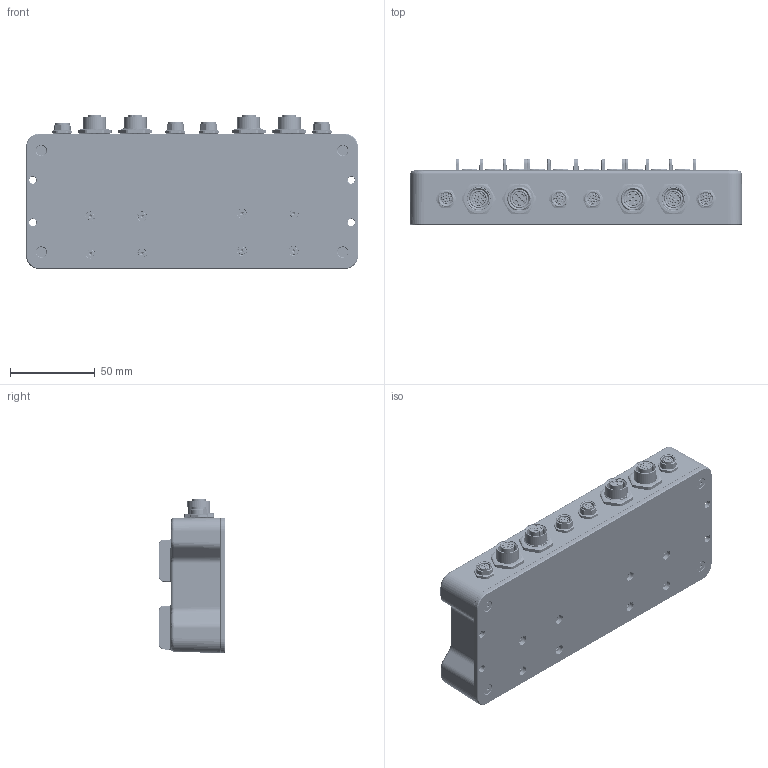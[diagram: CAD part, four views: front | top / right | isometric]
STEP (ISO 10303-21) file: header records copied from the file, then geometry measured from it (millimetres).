
FILE_DESCRIPTION (( 'STEP AP214' ), '1' );
FILE_NAME ('K2-MRO-C.STEP', '2024-08-08T11:53:11', ( '' ), ( '' ), 'SwSTEP 2.0', 'SolidWorks 2024', '' );
FILE_SCHEMA (( 'AUTOMOTIVE_DESIGN' ));
Length unit declared in the file: millimetre
Products named in the file (1): K2-MRO-C
Bounding box: 196 x 39.25 x 91.05 mm (x, y, z)
Volume: 201506.9 mm3; surface area: 143347.5 mm2
Topology: 54 solids, 54 shells, 7740 faces, 19679 edges, 12459 vertices
Faces by surface type: plane 3565, cylinder 2184, bspline 992, cone 891, torus 86, sphere 22
Entity records: 348639 total; most frequent: CARTESIAN_POINT 121019, ORIENTED_EDGE 39106, DIRECTION 33439, EDGE_CURVE 19553, VERTEX_POINT 12459, AXIS2_PLACEMENT_3D 11456, VECTOR 10527, LINE 10527
